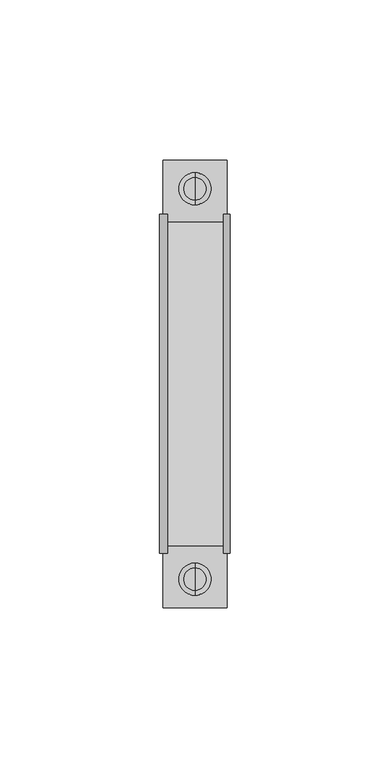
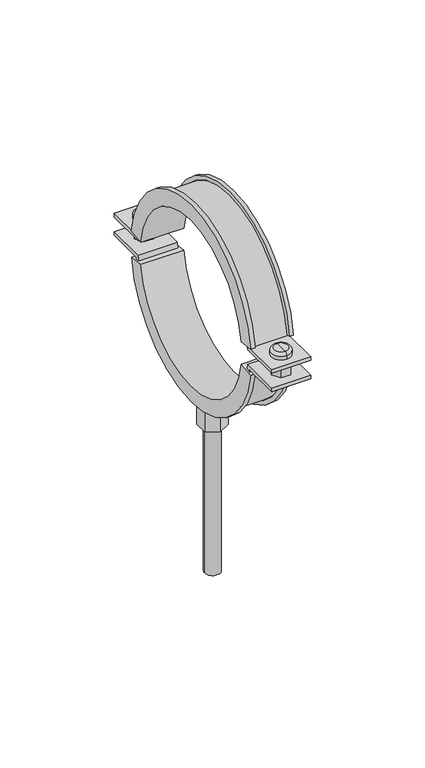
"""IFC4 building model written with IfcOpenShell, lengths in millimetres: pipe fitting geometry, NIRON abrazadera isofonica lisa : Estándard."""

from ifc_helpers import new_model, si_unit, point, frame, origin, origin_2d, place, context, project, spatial, polyline, circle_curve, ellipse_curve, trimmed, segment, composite_curve, outline, extrude, source, transform, mapped, element, save
from ifc_brep_helpers import plane_surface, cylinder_surface, revolved_surface, advanced_brep


def pipe_fitting_da037f95(model_context):
    return source(origin(), model_context, "Body", "SolidModel", [
        advanced_brep(
        [(0.0, 57.0, -7.8), (0.0, 57.0, -4.8), (0.0, 65.0, -4.8), (0.0, 65.0, -7.8), (0.0, 61.0, -7.8), (0.0, 61.0, -4.8)],
        [
            (0, 1),
            (1, 2, circle_curve(frame((0.0, 61.0, -4.8), z_axis=(0.0, 0.0, -1.0), x_axis=(0.0, 1.0, 0.0)), 4.0)),
            (2, 3),
            (3, 0, circle_curve(frame((0.0, 61.0, -7.8), z_axis=(0.0, 0.0, 1.0), x_axis=(0.0, 1.0, 0.0)), 4.0)),
            (2, 1, circle_curve(frame((0.0, 61.0, -4.8), z_axis=(0.0, 0.0, -1.0), x_axis=(0.0, 1.0, 0.0)), 4.0)),
            (0, 3, circle_curve(frame((0.0, 61.0, -7.8), z_axis=(0.0, 0.0, 1.0), x_axis=(0.0, 1.0, 0.0)), 4.0)),
            (4, 0),
            (3, 4),
            (1, 5),
            (5, 2),
        ],
        [
            cylinder_surface(frame((0.0, 61.0, -110.5332781), z_axis=(0.0, 0.0, -1.0), x_axis=(0.0, 1.0, 0.0)), 4.0),
            plane_surface(frame((0.0, 61.0, -7.8), z_axis=(0.0, 0.0, -1.0), x_axis=(0.0, 1.0, 0.0))),
            plane_surface(frame((0.0, 61.0, -4.8), z_axis=(0.0, 0.0, 1.0), x_axis=(0.0, 1.0, 0.0))),
        ],
        [
            (0, [[1, 2, 3, 4]]),
            (0, [[-3, 5, -1, 6]]),
            (1, [[7, -4, 8]]),
            (1, [[-8, -6, -7]]),
            (2, [[9, 10, -2]]),
            (2, [[-10, -9, -5]]),
        ],
    ),
        advanced_brep(
        [(0.0, 61.0, 4.8), (0.0, 56.0, 4.8), (0.0, 66.0, 4.8), (0.0, 56.0, 7.3), (0.0, 66.0, 7.3), (0.0, 57.5, 8.8), (0.0, 61.0, 8.8), (0.0, 64.5, 8.8)],
        [
            (0, 1),
            (1, 2, circle_curve(frame((0.0, 61.0, 4.8), z_axis=(0.0, 0.0, -1.0), x_axis=(0.0, 1.0, 0.0)), 5.0)),
            (2, 0),
            (2, 1, circle_curve(frame((0.0, 61.0, 4.8), z_axis=(0.0, 0.0, -1.0), x_axis=(0.0, 1.0, 0.0)), 5.0)),
            (1, 3),
            (3, 4, circle_curve(frame((0.0, 61.0, 7.3), z_axis=(0.0, 0.0, -1.0), x_axis=(0.0, 1.0, 0.0)), 5.0)),
            (4, 2),
            (4, 3, circle_curve(frame((0.0, 61.0, 7.3), z_axis=(0.0, 0.0, -1.0), x_axis=(0.0, 1.0, 0.0)), 5.0)),
            (5, 6),
            (6, 7),
            (7, 5, circle_curve(frame((0.0, 61.0, 8.8), z_axis=(0.0, 0.0, 1.0), x_axis=(0.0, 1.0, 0.0)), 3.5)),
            (5, 7, circle_curve(frame((0.0, 61.0, 8.8), z_axis=(0.0, 0.0, 1.0), x_axis=(0.0, 1.0, 0.0)), 3.5)),
            (3, 5, circle_curve(frame((0.0, 57.5, 7.3), z_axis=(-1.0, 0.0, 0.0), x_axis=(0.0, 1.0, 0.0)), 1.5)),
            (7, 4, circle_curve(frame((0.0, 64.5, 7.3), z_axis=(-1.0, 0.0, 0.0), x_axis=(0.0, -1.0, 0.0)), 1.5)),
        ],
        [
            plane_surface(frame((0.0, 61.0, 4.8), z_axis=(0.0, 0.0, -1.0), x_axis=(0.0, 1.0, 0.0))),
            cylinder_surface(frame((0.0, 61.0, 9.8), z_axis=(0.0, 0.0, -1.0), x_axis=(0.0, 1.0, 0.0)), 5.0),
            plane_surface(frame((0.0, 61.0, 8.8), z_axis=(0.0, 0.0, 1.0), x_axis=(0.0, 1.0, 0.0))),
            revolved_surface(trimmed(ellipse_curve(frame((0.0, 64.5, 7.3), z_axis=(-1.0, 0.0, 0.0), x_axis=(0.0, -1.0, 0.0)), 1.5, 1.5), [point((0.0, 64.5, 8.8))], [point((0.0, 66.0, 7.3))], True, "CARTESIAN"), (0.0, 61.0, 9.8), (0.0, 0.0, -1.0)),
        ],
        [
            (0, [[1, 2, 3]]),
            (0, [[-3, 4, -1]]),
            (1, [[5, 6, 7, -2]]),
            (1, [[-7, 8, -5, -4]]),
            (2, [[9, 10, 11]]),
            (2, [[-10, -9, 12]]),
            (3, [[13, -11, 14, -6]]),
            (3, [[-14, -12, -13, -8]]),
        ],
    ),
        advanced_brep(
        [(0.0, -57.0, -7.4875), (0.0, -65.0, -7.4875), (0.0, -65.0, -4.4875), (0.0, -57.0, -4.4875), (0.0, -61.0, -7.4875), (0.0, -61.0, -4.4875)],
        [
            (0, 1, circle_curve(frame((0.0, -61.0, -7.4875), z_axis=(0.0, 0.0, 1.0), x_axis=(0.0, -1.0, 0.0)), 4.0)),
            (1, 2),
            (2, 3, circle_curve(frame((0.0, -61.0, -4.4875), z_axis=(0.0, 0.0, -1.0), x_axis=(0.0, -1.0, 0.0)), 4.0)),
            (3, 0),
            (1, 0, circle_curve(frame((0.0, -61.0, -7.4875), z_axis=(0.0, 0.0, 1.0), x_axis=(0.0, -1.0, 0.0)), 4.0)),
            (3, 2, circle_curve(frame((0.0, -61.0, -4.4875), z_axis=(0.0, 0.0, -1.0), x_axis=(0.0, -1.0, 0.0)), 4.0)),
            (4, 1),
            (0, 4),
            (2, 5),
            (5, 3),
        ],
        [
            cylinder_surface(frame((0.0, -61.0, -110.2207781), z_axis=(0.0, 0.0, -1.0), x_axis=(0.0, -1.0, 0.0)), 4.0),
            plane_surface(frame((0.0, -61.0, -7.4875), z_axis=(0.0, 0.0, -1.0), x_axis=(0.0, -1.0, 0.0))),
            plane_surface(frame((0.0, -61.0, -4.4875), z_axis=(0.0, 0.0, 1.0), x_axis=(0.0, -1.0, 0.0))),
        ],
        [
            (0, [[1, 2, 3, 4]]),
            (0, [[5, -4, 6, -2]]),
            (1, [[7, -1, 8]]),
            (1, [[-8, -5, -7]]),
            (2, [[-3, 9, 10]]),
            (2, [[-6, -10, -9]]),
        ],
    ),
        advanced_brep(
        [(0.0, -61.0, 5.1125), (0.0, -66.0, 5.1125), (0.0, -56.0, 5.1125), (0.0, -66.0, 7.6125), (0.0, -56.0, 7.6125), (0.0, -57.5, 9.1125), (0.0, -64.5, 9.1125), (0.0, -61.0, 9.1125)],
        [
            (0, 1),
            (1, 2, circle_curve(frame((0.0, -61.0, 5.1125), z_axis=(0.0, 0.0, -1.0), x_axis=(0.0, -1.0, 0.0)), 5.0)),
            (2, 0),
            (2, 1, circle_curve(frame((0.0, -61.0, 5.1125), z_axis=(0.0, 0.0, -1.0), x_axis=(0.0, -1.0, 0.0)), 5.0)),
            (1, 3),
            (3, 4, circle_curve(frame((0.0, -61.0, 7.6125), z_axis=(0.0, 0.0, -1.0), x_axis=(0.0, -1.0, 0.0)), 5.0)),
            (4, 2),
            (4, 3, circle_curve(frame((0.0, -61.0, 7.6125), z_axis=(0.0, 0.0, -1.0), x_axis=(0.0, -1.0, 0.0)), 5.0)),
            (5, 6, circle_curve(frame((0.0, -61.0, 9.1125), z_axis=(0.0, 0.0, 1.0), x_axis=(0.0, -1.0, 0.0)), 3.5)),
            (6, 7),
            (7, 5),
            (6, 5, circle_curve(frame((0.0, -61.0, 9.1125), z_axis=(0.0, 0.0, 1.0), x_axis=(0.0, -1.0, 0.0)), 3.5)),
            (3, 6, circle_curve(frame((0.0, -64.5, 7.6125), z_axis=(-1.0, 0.0, 0.0), x_axis=(0.0, 1.0, 0.0)), 1.5)),
            (5, 4, circle_curve(frame((0.0, -57.5, 7.6125), z_axis=(-1.0, 0.0, 0.0), x_axis=(0.0, -1.0, 0.0)), 1.5)),
        ],
        [
            plane_surface(frame((0.0, -61.0, 5.1125), z_axis=(0.0, 0.0, -1.0), x_axis=(0.0, -1.0, 0.0))),
            cylinder_surface(frame((0.0, -61.0, 10.1125), z_axis=(0.0, 0.0, -1.0), x_axis=(0.0, -1.0, 0.0)), 5.0),
            plane_surface(frame((0.0, -61.0, 9.1125), z_axis=(0.0, 0.0, 1.0), x_axis=(0.0, -1.0, 0.0))),
            revolved_surface(trimmed(ellipse_curve(frame((0.0, -64.5, 7.6125), z_axis=(1.0, 0.0, 0.0), x_axis=(0.0, 1.0, 0.0)), 1.5, 1.5), [point((0.0, -64.5, 9.1125))], [point((0.0, -66.0, 7.6125))], True, "CARTESIAN"), (0.0, -61.0, 10.1125), (0.0, 0.0, -1.0)),
        ],
        [
            (0, [[1, 2, 3]]),
            (0, [[-3, 4, -1]]),
            (1, [[-2, 5, 6, 7]]),
            (1, [[-4, -7, 8, -5]]),
            (2, [[9, 10, 11]]),
            (2, [[12, -11, -10]]),
            (3, [[-6, 13, -9, 14]]),
            (3, [[-8, -14, -12, -13]]),
        ],
    ),
        extrude(outline(polyline([(2.5, 56.669873), (-2.5, 56.669873), (-5.0, 61.0), (-2.5, 65.330127), (2.5, 65.330127), (5.0, 61.0), (2.5, 56.669873)])), frame((0.0, 0.0, -4.0), z_axis=(0.0, 0.0, 1.0), x_axis=(1.0, 0.0, 0.0)), (0.0, 0.0, 1.0), 8.0),
        extrude(outline(polyline([(2.5, -56.669873), (5.0, -61.0), (2.5, -65.330127), (-2.5, -65.330127), (-5.0, -61.0), (-2.5, -56.669873), (2.5, -56.669873)])), frame((0.0, 0.0, -4.0), z_axis=(0.0, 0.0, 1.0), x_axis=(1.0, 0.0, 0.0)), (0.0, 0.0, 1.0), 8.0),
        advanced_brep(
        [(11.0, -44.6044996, 6.0), (11.0, -52.9802335, 7.1178475), (9.0, -52.9802335, 7.1178475), (9.0, -50.9978113, 6.8532682), (10.0, -50.9978113, 6.8532682), (10.0, -49.015389, 6.5886889), (-10.0, -49.015389, 6.5886889), (-10.0, -50.9978113, 6.8532682), (-8.5466338, -50.9978113, 6.8532682), (-8.5466338, -52.9802335, 7.1178475), (-11.0, -52.9802335, 7.1178475), (-11.0, -44.6044996, 6.0), (11.0, 44.6044996, 6.0), (-11.0, 44.6044996, 6.0), (-11.0, 52.9802335, 7.1178475), (-8.5466338, 52.9802335, 7.1178475), (-8.5466338, 50.9978113, 6.8532682), (-10.0, 50.9978113, 6.8532682), (-10.0, 49.015389, 6.5886889), (10.0, 49.015389, 6.5886889), (10.0, 50.9978113, 6.8532682), (9.0, 50.9978113, 6.8532682), (9.0, 52.9802335, 7.1178475), (11.0, 52.9802335, 7.1178475)],
        [
            (0, 1),
            (1, 2),
            (2, 3),
            (3, 4),
            (4, 5),
            (5, 6),
            (6, 7),
            (7, 8),
            (8, 9),
            (9, 10),
            (10, 11),
            (11, 0),
            (12, 13),
            (13, 14),
            (14, 15),
            (15, 16),
            (16, 17),
            (17, 18),
            (18, 19),
            (19, 20),
            (20, 21),
            (21, 22),
            (22, 23),
            (23, 12),
            (12, 0, circle_curve(frame((11.0, 0.0, 0.0469661), z_axis=(1.0, 0.0, 0.0), x_axis=(0.0, -0.9912111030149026, 0.1322896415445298)), 45.0)),
            (11, 13, circle_curve(frame((-11.0, 0.0, 0.0469661), z_axis=(-1.0, 0.0, 0.0), x_axis=(0.0, -0.9912111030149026, 0.1322896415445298)), 45.0)),
            (10, 14, circle_curve(frame((-11.0, 0.0, 0.0469661), z_axis=(-1.0, 0.0, 0.0), x_axis=(0.0, -0.9912111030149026, 0.1322896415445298)), 53.45)),
            (9, 15, circle_curve(frame((-8.5466338, 0.0, 0.0469661), z_axis=(-1.0, 0.0, 0.0), x_axis=(0.0, -0.9912111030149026, 0.1322896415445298)), 53.45)),
            (8, 16, circle_curve(frame((-8.5466338, 0.0, 0.0469661), z_axis=(-1.0, 0.0, 0.0), x_axis=(0.0, -0.9912111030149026, 0.1322896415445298)), 51.45)),
            (7, 17, circle_curve(frame((-10.0, 0.0, 0.0469661), z_axis=(-1.0, 0.0, 0.0), x_axis=(0.0, -0.9912111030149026, 0.1322896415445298)), 51.45)),
            (6, 18, circle_curve(frame((-10.0, 0.0, 0.0469661), z_axis=(-1.0, 0.0, 0.0), x_axis=(0.0, -0.9912111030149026, 0.1322896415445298)), 49.45)),
            (5, 19, circle_curve(frame((10.0, 0.0, 0.0469661), z_axis=(-1.0, 0.0, 0.0), x_axis=(0.0, -0.9912111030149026, 0.1322896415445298)), 49.45)),
            (4, 20, circle_curve(frame((10.0, 0.0, 0.0469661), z_axis=(-1.0, 0.0, 0.0), x_axis=(0.0, -0.9912111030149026, 0.1322896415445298)), 51.45)),
            (3, 21, circle_curve(frame((9.0, 0.0, 0.0469661), z_axis=(-1.0, 0.0, 0.0), x_axis=(0.0, -0.9912111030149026, 0.1322896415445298)), 51.45)),
            (2, 22, circle_curve(frame((9.0, 0.0, 0.0469661), z_axis=(-1.0, 0.0, 0.0), x_axis=(0.0, -0.9912111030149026, 0.1322896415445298)), 53.45)),
            (1, 23, circle_curve(frame((11.0, 0.0, 0.0469661), z_axis=(-1.0, 0.0, 0.0), x_axis=(0.0, -0.9912111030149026, 0.1322896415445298)), 53.45)),
        ],
        [
            plane_surface(frame((0.0, -44.6044996, 6.0), z_axis=(0.0, -0.1322896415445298, -0.9912111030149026), x_axis=(1.0, 0.0, 0.0))),
            plane_surface(frame((0.0, 44.6044996, 6.0), z_axis=(0.0, 0.1322896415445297, -0.9912111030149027), x_axis=(1.0, 0.0, 0.0))),
            revolved_surface(polyline([(-11.0, -44.604499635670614, 5.999999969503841), (11.0, -44.604499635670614, 5.999999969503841)]), (0.0, 0.0, 0.0469661), (-1.0, 0.0, 0.0)),
            plane_surface(frame((-11.0, 0.0, 0.0469661), z_axis=(-1.0, 0.0, 0.0), x_axis=(0.0, -0.9912111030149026, 0.1322896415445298))),
            cylinder_surface(frame((0.0, 0.0, 0.0469661), z_axis=(-1.0, 0.0, 0.0), x_axis=(0.0, -0.9912111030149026, 0.1322896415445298)), 53.45),
            plane_surface(frame((-8.5466338, 0.0, 0.0469661), z_axis=(1.0, 0.0, 0.0), x_axis=(0.0, -0.9912111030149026, 0.1322896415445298))),
            revolved_surface(polyline([(-10.0, -50.99781125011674, 6.853268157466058), (-8.5466338, -50.99781125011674, 6.853268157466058)]), (0.0, 0.0, 0.0469661), (-1.0, 0.0, 0.0)),
            plane_surface(frame((-10.0, 0.0, 0.0469661), z_axis=(1.0, 0.0, 0.0), x_axis=(0.0, -0.9912111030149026, 0.1322896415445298))),
            cylinder_surface(frame((0.0, 0.0, 0.0469661), z_axis=(-1.0, 0.0, 0.0), x_axis=(0.0, -0.9912111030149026, 0.1322896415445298)), 49.45),
            plane_surface(frame((10.0, 0.0, 0.0469661), z_axis=(-1.0, 0.0, 0.0), x_axis=(0.0, -0.9912111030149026, 0.1322896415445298))),
            revolved_surface(polyline([(9.0, -50.99781125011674, 6.853268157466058), (10.0, -50.99781125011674, 6.853268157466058)]), (0.0, 0.0, 0.0469661), (-1.0, 0.0, 0.0)),
            plane_surface(frame((9.0, 0.0, 0.0469661), z_axis=(-1.0, 0.0, 0.0), x_axis=(0.0, -0.9912111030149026, 0.1322896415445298))),
            plane_surface(frame((11.0, 0.0, 0.0469661), z_axis=(1.0, 0.0, 0.0), x_axis=(0.0, -0.9912111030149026, 0.1322896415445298))),
        ],
        [
            (0, [[1, 2, 3, 4, 5, 6, 7, 8, 9, 10, 11, 12]]),
            (1, [[13, 14, 15, 16, 17, 18, 19, 20, 21, 22, 23, 24]]),
            (2, [[25, -12, 26, -13]]),
            (3, [[-26, -11, 27, -14]]),
            (4, [[-27, -10, 28, -15]]),
            (5, [[-28, -9, 29, -16]]),
            (6, [[-29, -8, 30, -17]]),
            (7, [[-30, -7, 31, -18]]),
            (8, [[-31, -6, 32, -19]]),
            (9, [[-32, -5, 33, -20]]),
            (10, [[-33, -4, 34, -21]]),
            (11, [[-34, -3, 35, -22]]),
            (4, [[-35, -2, 36, -23]]),
            (12, [[-36, -1, -25, -24]]),
        ],
    ),
        extrude(outline(composite_curve([segment(trimmed(circle_curve(origin_2d(), 49.0), [point((-48.8364618, -4.0))], [point((48.8364618, -4.0))], True, "CARTESIAN"), True, "CONTINUOUS"), segment(polyline([(48.8364618, -4.0), (70.0, -4.0), (70.0, -6.0), (50.645829, -6.0)]), True, "CONTINUOUS"), segment(trimmed(circle_curve(origin_2d(), 51.0), [point((50.645829, -6.0))], [point((-50.645829, -6.0))], False, "CARTESIAN"), True, "CONTINUOUS"), segment(polyline([(-50.645829, -6.0), (-70.0, -6.0), (-70.0, -4.0), (-48.8364618, -4.0)]), True, "CONTINUOUS")], self_intersect=False)), frame((-10.0, 0.0, 0.0), z_axis=(1.0, 0.0, 0.0), x_axis=(0.0, 1.0, 0.0)), (0.0, 0.0, 1.0), 20.0),
        advanced_brep(
        [(11.0, -44.5982062, -6.0), (-11.0, -44.5982062, -6.0), (-11.0, -52.9727583, -7.1266667), (-8.5466338, -52.9727583, -7.1266667), (-8.5466338, -50.9906158, -6.86), (-10.0, -50.9906158, -6.86), (-10.0, -49.0084733, -6.5933333), (10.0, -49.0084733, -6.5933333), (10.0, -50.9906158, -6.86), (9.0, -50.9906158, -6.86), (9.0, -52.9727583, -7.1266667), (11.0, -52.9727583, -7.1266667), (11.0, 44.5982062, -6.0), (11.0, 52.9727583, -7.1266667), (9.0, 52.9727583, -7.1266667), (9.0, 50.9906158, -6.86), (10.0, 50.9906158, -6.86), (10.0, 49.0084733, -6.5933333), (-10.0, 49.0084733, -6.5933333), (-10.0, 50.9906158, -6.86), (-8.5466338, 50.9906158, -6.86), (-8.5466338, 52.9727583, -7.1266667), (-11.0, 52.9727583, -7.1266667), (-11.0, 44.5982062, -6.0)],
        [
            (0, 1),
            (1, 2),
            (2, 3),
            (3, 4),
            (4, 5),
            (5, 6),
            (6, 7),
            (7, 8),
            (8, 9),
            (9, 10),
            (10, 11),
            (11, 0),
            (12, 13),
            (13, 14),
            (14, 15),
            (15, 16),
            (16, 17),
            (17, 18),
            (18, 19),
            (19, 20),
            (20, 21),
            (21, 22),
            (22, 23),
            (23, 12),
            (23, 1, circle_curve(frame((-11.0, 0.0, 0.0), z_axis=(-1.0, 0.0, 0.0), x_axis=(0.0, -0.9910712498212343, -0.13333333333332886)), 45.0)),
            (0, 12, circle_curve(frame((11.0, 0.0, 0.0), z_axis=(1.0, 0.0, 0.0), x_axis=(0.0, -0.9910712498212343, -0.13333333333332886)), 45.0)),
            (22, 2, circle_curve(frame((-11.0, 0.0, 0.0), z_axis=(-1.0, 0.0, 0.0), x_axis=(0.0, -0.9910712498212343, -0.13333333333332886)), 53.45)),
            (21, 3, circle_curve(frame((-8.5466338, 0.0, 0.0), z_axis=(-1.0, 0.0, 0.0), x_axis=(0.0, -0.9910712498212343, -0.13333333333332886)), 53.45)),
            (20, 4, circle_curve(frame((-8.5466338, 0.0, 0.0), z_axis=(-1.0, 0.0, 0.0), x_axis=(0.0, -0.9910712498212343, -0.13333333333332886)), 51.45)),
            (19, 5, circle_curve(frame((-10.0, 0.0, 0.0), z_axis=(-1.0, 0.0, 0.0), x_axis=(0.0, -0.9910712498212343, -0.13333333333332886)), 51.45)),
            (18, 6, circle_curve(frame((-10.0, 0.0, 0.0), z_axis=(-1.0, 0.0, 0.0), x_axis=(0.0, -0.9910712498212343, -0.13333333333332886)), 49.45)),
            (17, 7, circle_curve(frame((10.0, 0.0, 0.0), z_axis=(-1.0, 0.0, 0.0), x_axis=(0.0, -0.9910712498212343, -0.13333333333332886)), 49.45)),
            (16, 8, circle_curve(frame((10.0, 0.0, 0.0), z_axis=(-1.0, 0.0, 0.0), x_axis=(0.0, -0.9910712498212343, -0.13333333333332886)), 51.45)),
            (15, 9, circle_curve(frame((9.0, 0.0, 0.0), z_axis=(-1.0, 0.0, 0.0), x_axis=(0.0, -0.9910712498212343, -0.13333333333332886)), 51.45)),
            (14, 10, circle_curve(frame((9.0, 0.0, 0.0), z_axis=(-1.0, 0.0, 0.0), x_axis=(0.0, -0.9910712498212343, -0.13333333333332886)), 53.45)),
            (13, 11, circle_curve(frame((11.0, 0.0, 0.0), z_axis=(-1.0, 0.0, 0.0), x_axis=(0.0, -0.9910712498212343, -0.13333333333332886)), 53.45)),
        ],
        [
            plane_surface(frame((0.0, -44.5982062, -6.0), z_axis=(0.0, -0.13333333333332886, 0.9910712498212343), x_axis=(1.0, 0.0, 0.0))),
            plane_surface(frame((0.0, 44.5982062, -6.0), z_axis=(0.0, 0.13333333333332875, 0.9910712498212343), x_axis=(1.0, 0.0, 0.0))),
            revolved_surface(polyline([(11.0, -44.598206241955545, -5.999999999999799), (-11.0, -44.598206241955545, -5.999999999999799)]), (0.0, 0.0, 0.0), (1.0, 0.0, 0.0)),
            plane_surface(frame((-11.0, 0.0, 0.0), z_axis=(-1.0, 0.0, 0.0), x_axis=(0.0, -0.9910712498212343, -0.13333333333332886))),
            cylinder_surface(frame((0.0, 0.0, 0.0), z_axis=(1.0, 0.0, 0.0), x_axis=(0.0, -0.9910712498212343, -0.13333333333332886)), 53.45),
            plane_surface(frame((-8.5466338, 0.0, 0.0), z_axis=(1.0, 0.0, 0.0), x_axis=(0.0, -0.9910712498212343, -0.13333333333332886))),
            revolved_surface(polyline([(-8.5466338, -50.990615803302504, -6.85999999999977), (-10.0, -50.990615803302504, -6.85999999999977)]), (0.0, 0.0, 0.0), (1.0, 0.0, 0.0)),
            plane_surface(frame((-10.0, 0.0, 0.0), z_axis=(1.0, 0.0, 0.0), x_axis=(0.0, -0.9910712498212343, -0.13333333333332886))),
            cylinder_surface(frame((0.0, 0.0, 0.0), z_axis=(1.0, 0.0, 0.0), x_axis=(0.0, -0.9910712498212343, -0.13333333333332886)), 49.45),
            plane_surface(frame((10.0, 0.0, 0.0), z_axis=(-1.0, 0.0, 0.0), x_axis=(0.0, -0.9910712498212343, -0.13333333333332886))),
            revolved_surface(polyline([(10.0, -50.990615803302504, -6.85999999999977), (9.0, -50.990615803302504, -6.85999999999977)]), (0.0, 0.0, 0.0), (1.0, 0.0, 0.0)),
            plane_surface(frame((9.0, 0.0, 0.0), z_axis=(-1.0, 0.0, 0.0), x_axis=(0.0, -0.9910712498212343, -0.13333333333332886))),
            plane_surface(frame((11.0, 0.0, 0.0), z_axis=(1.0, 0.0, 0.0), x_axis=(0.0, -0.9910712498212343, -0.13333333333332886))),
        ],
        [
            (0, [[1, 2, 3, 4, 5, 6, 7, 8, 9, 10, 11, 12]]),
            (1, [[13, 14, 15, 16, 17, 18, 19, 20, 21, 22, 23, 24]]),
            (2, [[25, -1, 26, -24]]),
            (3, [[27, -2, -25, -23]]),
            (4, [[28, -3, -27, -22]]),
            (5, [[29, -4, -28, -21]]),
            (6, [[30, -5, -29, -20]]),
            (7, [[31, -6, -30, -19]]),
            (8, [[32, -7, -31, -18]]),
            (9, [[33, -8, -32, -17]]),
            (10, [[34, -9, -33, -16]]),
            (11, [[35, -10, -34, -15]]),
            (4, [[36, -11, -35, -14]]),
            (12, [[-26, -12, -36, -13]]),
        ],
    ),
        extrude(outline(composite_curve([segment(trimmed(circle_curve(origin_2d(), 51.0), [point((-50.645829, 6.0))], [point((50.645829, 6.0))], False, "CARTESIAN"), True, "CONTINUOUS"), segment(polyline([(50.645829, 6.0), (70.0, 6.0), (70.0, 4.0), (48.8364618, 4.0)]), True, "CONTINUOUS"), segment(trimmed(circle_curve(origin_2d(), 49.0), [point((48.8364618, 4.0))], [point((-48.8364618, 4.0))], True, "CARTESIAN"), True, "CONTINUOUS"), segment(polyline([(-48.8364618, 4.0), (-70.0, 4.0), (-70.0, 6.0), (-50.645829, 6.0)]), True, "CONTINUOUS")], self_intersect=False)), frame((-10.0, 0.0, 0.0), z_axis=(1.0, 0.0, 0.0), x_axis=(0.0, 1.0, 0.0)), (0.0, 0.0, 1.0), 20.0),
        extrude(outline(composite_curve([segment(trimmed(circle_curve(origin_2d(), 4.0), [point((-4.0, 0.0))], [point((4.0, 0.0))], False, "CARTESIAN"), True, "CONTINUOUS"), segment(trimmed(circle_curve(origin_2d(), 4.0), [point((4.0, 0.0))], [point((-4.0, 0.0))], False, "CARTESIAN"), True, "CONTINUOUS")], self_intersect=False)), frame((0.0, 0.0, -149.0), z_axis=(0.0, 0.0, 1.0), x_axis=(1.0, 0.0, 0.0)), (0.0, 0.0, 1.0), 100.0),
        extrude(outline(polyline([(-6.0621778, 3.5), (0.0, 7.0), (6.0621778, 3.5), (6.0621778, -3.5), (0.0, -7.0), (-6.0621778, -3.5), (-6.0621778, 3.5)])), frame((0.0, 0.0, -69.5), z_axis=(0.0, 0.0, 1.0), x_axis=(1.0, 0.0, 0.0)), (0.0, 0.0, 1.0), 20.5),
    ])


if __name__ == "__main__":
    model = new_model("IFC4")
    model_context = context("Model", 3, world=origin())
    ifc_project = project(units=[si_unit("LENGTHUNIT", "METRE", prefix="MILLI")], contexts=[model_context])
    site = spatial("IfcSite", under=ifc_project)
    building = spatial("IfcBuilding", under=site)
    placement = place(None, origin())
    pipe_fitting_shape = pipe_fitting_da037f95(model_context)
    element("IfcPipeFitting", 1, ObjectType="NIRON abrazadera isofonica lisa : Estándard", at=placement, inside=building, context=model_context, shape_type="MappedRepresentation", body=[
        mapped(pipe_fitting_shape, transform((0.0, 0.0, 0.0), x_axis=(1.0, 0.0, 0.0), y_axis=(0.0, 1.0, 0.0), z_axis=(0.0, 0.0, 1.0))),
    ])
    save(model, "model.ifc")
